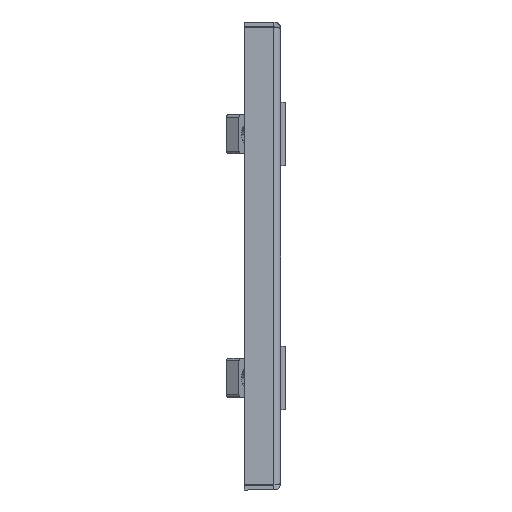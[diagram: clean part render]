
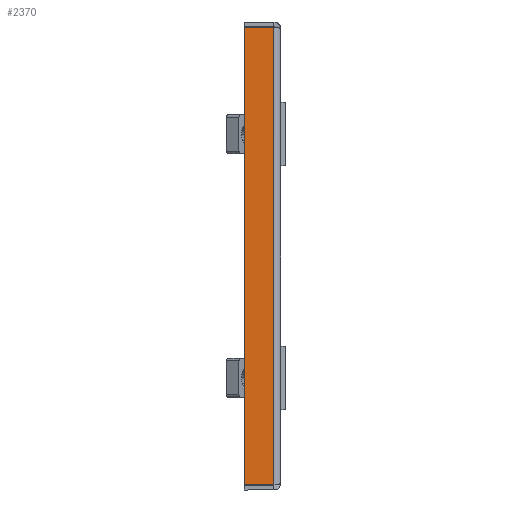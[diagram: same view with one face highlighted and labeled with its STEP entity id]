
A CAD part, left-side view. The second image highlights one B-rep face of the part: STEP entity #2370.
In plain terms, the highlighted planar face has unit normal (-1, 0, 0).
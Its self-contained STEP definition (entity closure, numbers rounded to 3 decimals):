
#5 = CARTESIAN_POINT ( 'NONE',  ( 0., 13., -189.929 ) ) ;
#23 = CARTESIAN_POINT ( 'NONE',  ( 0., 0., 0. ) ) ;
#102 = ORIENTED_EDGE ( 'NONE', *, *, #2559, .F. ) ;
#155 = DIRECTION ( 'NONE',  ( 0., 1., 0. ) ) ;
#222 = ORIENTED_EDGE ( 'NONE', *, *, #1709, .T. ) ;
#321 = VECTOR ( 'NONE', #4928, 1000. ) ;
#666 = VERTEX_POINT ( 'NONE', #5 ) ;
#1151 = CARTESIAN_POINT ( 'NONE',  ( 0., 0.737, -2.071 ) ) ;
#1201 = VERTEX_POINT ( 'NONE', #3723 ) ;
#1234 = CARTESIAN_POINT ( 'NONE',  ( 0., 13., 0. ) ) ;
#1298 = CARTESIAN_POINT ( 'NONE',  ( 0., 0.737, -2.071 ) ) ;
#1349 = EDGE_CURVE ( 'NONE', #2738, #666, #1802, .T. ) ;
#1479 = CARTESIAN_POINT ( 'NONE',  ( 0., 0.737, -189.929 ) ) ;
#1709 = EDGE_CURVE ( 'NONE', #1201, #666, #2794, .T. ) ;
#1802 = LINE ( 'NONE', #1479, #4552 ) ;
#2096 = VERTEX_POINT ( 'NONE', #1151 ) ;
#2114 = EDGE_LOOP ( 'NONE', ( #102, #3144, #222, #4334 ) ) ;
#2124 = AXIS2_PLACEMENT_3D ( 'NONE', #23, #4488, #3666 ) ;
#2125 = FACE_OUTER_BOUND ( 'NONE', #2114, .T. ) ;
#2370 = ADVANCED_FACE ( 'NONE', ( #2125 ), #2522, .F. ) ;
#2522 = PLANE ( 'NONE',  #2124 ) ;
#2559 = EDGE_CURVE ( 'NONE', #2096, #2738, #3456, .T. ) ;
#2738 = VERTEX_POINT ( 'NONE', #3668 ) ;
#2794 = LINE ( 'NONE', #1234, #321 ) ;
#2897 = VECTOR ( 'NONE', #4256, 1000. ) ;
#2948 = EDGE_CURVE ( 'NONE', #2096, #1201, #5054, .T. ) ;
#3144 = ORIENTED_EDGE ( 'NONE', *, *, #2948, .T. ) ;
#3456 = LINE ( 'NONE', #4684, #4022 ) ;
#3666 = DIRECTION ( 'NONE',  ( 0., 1., 0. ) ) ;
#3668 = CARTESIAN_POINT ( 'NONE',  ( 0., 0.737, -189.929 ) ) ;
#3723 = CARTESIAN_POINT ( 'NONE',  ( 0., 13., -2.071 ) ) ;
#4022 = VECTOR ( 'NONE', #4704, 1000. ) ;
#4256 = DIRECTION ( 'NONE',  ( 0., 1., 0. ) ) ;
#4334 = ORIENTED_EDGE ( 'NONE', *, *, #1349, .F. ) ;
#4488 = DIRECTION ( 'NONE',  ( 1., 0., 0. ) ) ;
#4552 = VECTOR ( 'NONE', #155, 1000. ) ;
#4684 = CARTESIAN_POINT ( 'NONE',  ( 0., 0.737, -192. ) ) ;
#4704 = DIRECTION ( 'NONE',  ( 0., 0., -1. ) ) ;
#4928 = DIRECTION ( 'NONE',  ( 0., 0., -1. ) ) ;
#5054 = LINE ( 'NONE', #1298, #2897 ) ;
